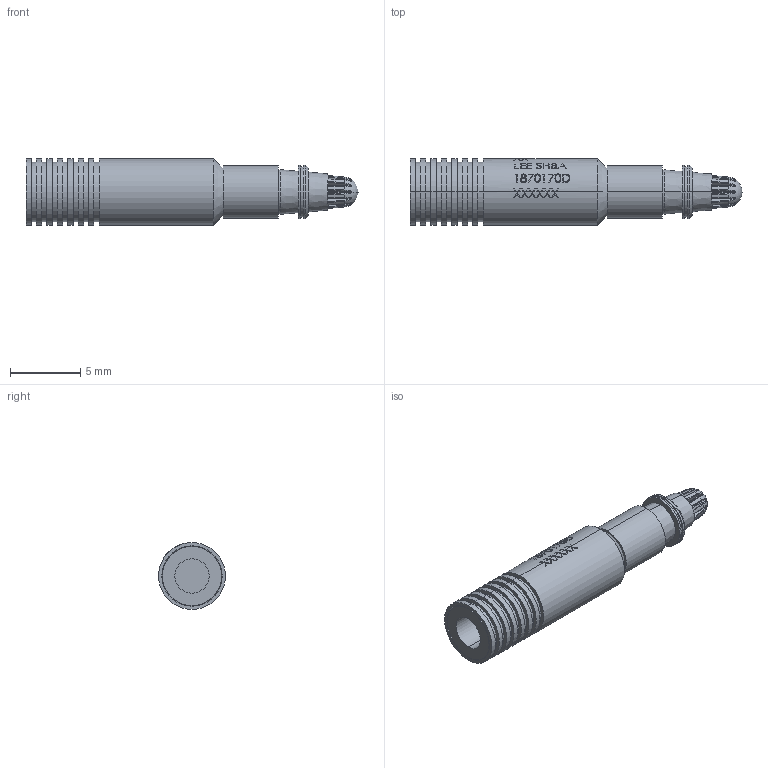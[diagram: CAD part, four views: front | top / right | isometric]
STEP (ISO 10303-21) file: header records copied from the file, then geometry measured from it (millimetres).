
FILE_DESCRIPTION (( 'STEP AP214' ), '1' );
FILE_NAME ('3DSHBA1870170D.STEP', '2021-04-01T12:13:32', ( '' ), ( '' ), 'SwSTEP 2.0', 'SolidWorks 2019', '' );
FILE_SCHEMA (( 'AUTOMOTIVE_DESIGN' ));
Length unit declared in the file: inch
Products named in the file (1): 3DSHBA1870170D
Bounding box: 23.62 x 4.76 x 4.76 mm (x, y, z)
Volume: 281.4 mm3; surface area: 461.7 mm2
Topology: 2 solids, 2 shells, 494 faces, 1274 edges, 831 vertices
Faces by surface type: bspline 194, plane 159, cylinder 93, torus 24, cone 22, sphere 2
Entity records: 23777 total; most frequent: CARTESIAN_POINT 9497, ORIENTED_EDGE 2548, DIRECTION 1544, EDGE_CURVE 1274, VERTEX_POINT 831, B_SPLINE_CURVE_WITH_KNOTS 630, AXIS2_PLACEMENT_3D 599, EDGE_LOOP 541
